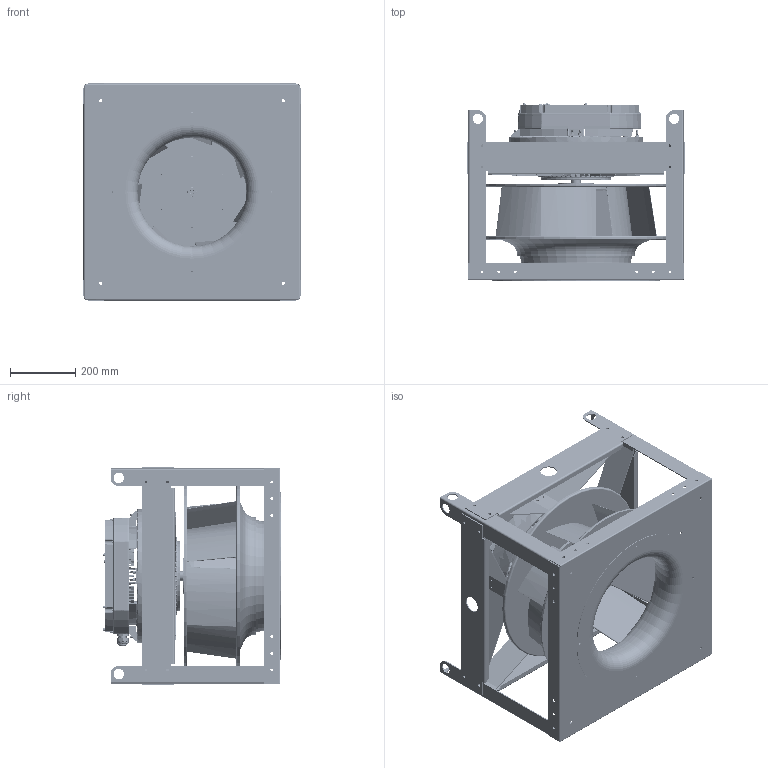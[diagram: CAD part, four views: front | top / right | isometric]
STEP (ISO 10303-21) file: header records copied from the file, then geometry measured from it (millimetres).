
FILE_DESCRIPTION (( 'STEP AP214' ), '1' );
FILE_NAME ('655782.STEP', '2026-06-10T14:23:48', ( '' ), ( '' ), 'SwSTEP 2.0', 'SolidWorks 2023', '' );
FILE_SCHEMA (( 'AUTOMOTIVE_DESIGN' ));
Length unit declared in the file: inch
Products named in the file (8): 655782; 925517CS_925517CS; 651593_651593; 651547_651547; 768037CS_768037CS; 768049CS_768049CS; 651606_651606; SXPI STRAP_651579
Assembly tree (16 placements, depth 2):
  655782
    651547_651547
    651606_651606  x4
    651593_651593  x4
    SXPI STRAP_651579  x4
    925517CS_925517CS
    768037CS_768037CS
    768049CS_768049CS
Bounding box: 663.7 x 542.63 x 663.7 mm (x, y, z)
Volume: 6579048.3 mm3; surface area: 5768811.9 mm2
Topology: 26 solids, 248 shells, 4382 faces, 14029 edges, 9595 vertices
Faces by surface type: cylinder 1285, plane 1169, bspline 1126, torus 402, cone 395, sphere 5
Full cylindrical faces by diameter (mm): 2.9 x2, 3.962 x4, 5.105 x16, 6 x144, 7 x5, 7.137 x16, 7.544 x1, 7.937 x3, 7.938 x1, 8.5 x1, 8.738 x87, 9 x5, 9.73 x8, 10.1 x1, 10.2 x1, 11.8 x7, 12.5 x1, 12.6 x1, 13 x7, 14 x1, 17.462 x4, 23.5 x1, 25.4 x1, 25.5 x2, 26.2 x1, 26.35 x1, 26.416 x2, 26.5 x1, 28.575 x1, 29.75 x1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
Entity records: 309355 total; most frequent: CARTESIAN_POINT 211078, ORIENTED_EDGE 20257, DIRECTION 17379, EDGE_CURVE 12542, VERTEX_POINT 8799, AXIS2_PLACEMENT_3D 6881, EDGE_LOOP 4748, B_SPLINE_CURVE_WITH_KNOTS 4148
